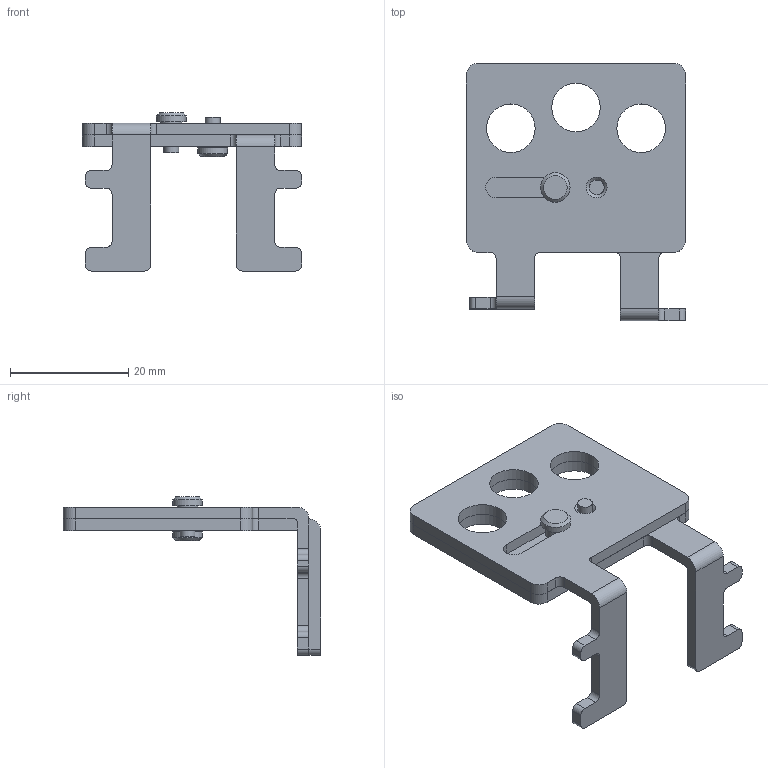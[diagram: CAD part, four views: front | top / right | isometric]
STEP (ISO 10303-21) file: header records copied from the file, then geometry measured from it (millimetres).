
FILE_DESCRIPTION(/* description */ (''),/* implementation_level */ '2;1');
FILE_NAME(/* name */ 'FSS1-CM5-630.stp',/* time_stamp */ '2023-04-10T16:39:09+08:00',/* author */ (''),/* organization */ (''),/* preprocessor_version */ 'ST-DEVELOPER v16.7',/* originating_system */ 'SIEMENS PLM Software NX 12.0',/* authorisation */ '');
FILE_SCHEMA (('AUTOMOTIVE_DESIGN { 1 0 10303 214 3 1 1 1 }'));
Length unit declared in the file: millimetre
Products named in the file (1): _model2
Bounding box: 37 x 43.5 x 26.7 mm (x, y, z)
Volume: 4975.8 mm3; surface area: 6369.2 mm2
Topology: 4 solids, 4 shells, 102 faces, 268 edges, 178 vertices
Faces by surface type: cylinder 50, plane 48, cone 4
Full cylindrical faces by diameter (mm): 2.5 x4, 3.5 x2, 5 x2, 8.2 x6
Entity records: 3151 total; most frequent: DIRECTION 558, CARTESIAN_POINT 527, ORIENTED_EDGE 496, EDGE_CURVE 248, AXIS2_PLACEMENT_3D 207, VERTEX_POINT 176, LINE 144, VECTOR 144
